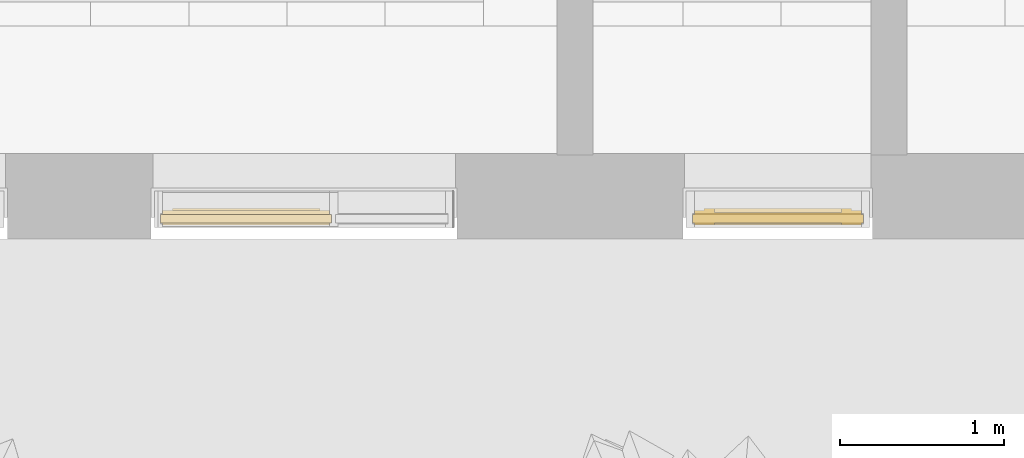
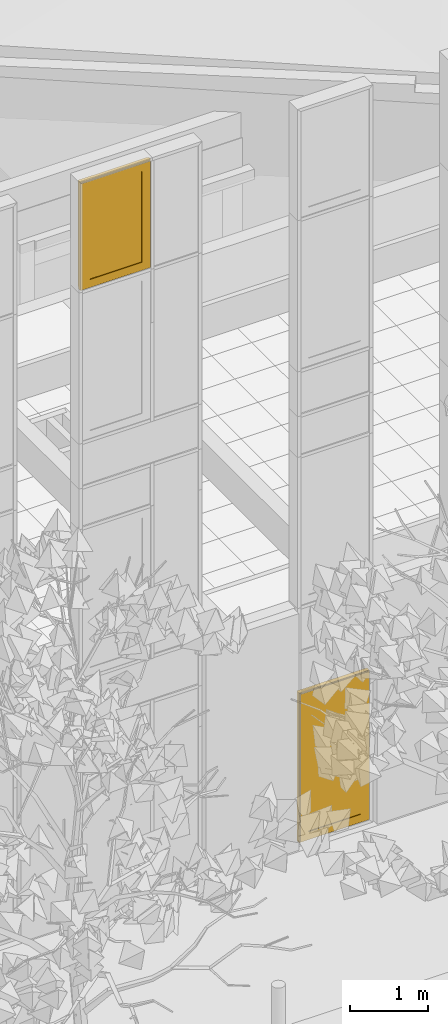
# One storey, part 151 of 246: 2 windows, 2 elements without a shape of their own.
"""IFC2X3 building model written with IfcOpenShell, lengths in millimetres."""

from ifc_helpers import new_model, entity, si_unit, converted_unit, derived_unit, money_unit, direction, frame, origin_with_axes, place, context, subcontext, project, spatial, open_shell, faceted_brep, surface_model, source, transform, mapped, material, material_list, type_object, element, aggregate, save


model = new_model("IFC2X3")

# Units and contexts
model_context = context("Model", 3, precision=0.01, world=origin_with_axes(), true_north=direction((0.0, 1.0)))
body_context = subcontext(model_context, "Body", "Model", "MODEL_VIEW")
ifc_project = project(units=[si_unit("LENGTHUNIT", "METRE", prefix="MILLI"), si_unit("AREAUNIT", "SQUARE_METRE"), si_unit("VOLUMEUNIT", "CUBIC_METRE"), converted_unit("PLANEANGLEUNIT", "DEGREE", entity("IfcPlaneAngleMeasure", 0.0174532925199), si_unit("PLANEANGLEUNIT", "RADIAN"), dimensions=[0, 0, 0, 0, 0, 0, 0]), si_unit("SOLIDANGLEUNIT", "STERADIAN"), money_unit("EUR"), converted_unit("TIMEUNIT", "Year", entity("IfcTimeMeasure", 31556926.0), si_unit("TIMEUNIT", "SECOND"), dimensions=[0, 0, 1, 0, 0, 0, 0]), si_unit("MASSUNIT", "GRAM", prefix="KILO"), si_unit("THERMODYNAMICTEMPERATUREUNIT", "DEGREE_CELSIUS"), si_unit("LUMINOUSINTENSITYUNIT", "LUMEN"), si_unit("ENERGYUNIT", "JOULE", prefix="MEGA"), derived_unit("THERMALCONDUCTANCEUNIT", [(si_unit("POWERUNIT", "WATT"), 1), (si_unit("LENGTHUNIT", "METRE"), -1), (si_unit("THERMODYNAMICTEMPERATUREUNIT", "KELVIN"), -1)]), derived_unit("SPECIFICHEATCAPACITYUNIT", [(si_unit("ENERGYUNIT", "JOULE"), 1), (si_unit("MASSUNIT", "GRAM", prefix="KILO"), -1), (si_unit("THERMODYNAMICTEMPERATUREUNIT", "KELVIN"), -1)]), derived_unit("MASSDENSITYUNIT", [(si_unit("MASSUNIT", "GRAM", prefix="KILO"), 1), (si_unit("VOLUMEUNIT", "CUBIC_METRE"), -1)])], contexts=[model_context])

# Site, building, storey
site_placement = place(None, origin_with_axes())
site = spatial("IfcSite", under=ifc_project, at=site_placement, Name="L.Koidula tn 11b", CompositionType="ELEMENT")
building_placement = place(site_placement, origin_with_axes())
building = spatial("IfcBuilding", under=site, at=building_placement, Name="Rakvere Riigigümnaasium", CompositionType="ELEMENT")
storey_placement = place(building_placement, origin_with_axes())
storey = spatial("IfcBuildingStorey", under=building, at=storey_placement, Name="1.korrus 0,00", CompositionType="ELEMENT", Elevation=0.0)

# Curtain wall, window
curtain_wall_type = type_object("IfcCurtainWallType", Name="Curtain Wall Type", PredefinedType="NOTDEFINED")
curtain_wall_1_placement = place(storey_placement, frame((81464.0000846, 5111.45334637, -8.09717250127e-06), z_axis=(0.0, 0.0, 1.0), x_axis=(1.0, 0.0, 0.0)))
curtain_wall_1 = element("IfcCurtainWall", 1, at=curtain_wall_1_placement, inside=storey, type_object=curtain_wall_type, Name="KLF-05-2A")
ifc_material_1 = material(Name="Alumiiniumprofiil (RAL 7021)")
ifc_material_2 = material(Name="Klaaspakett 3x ribikardinatega")
ifc_material_list = material_list([ifc_material_1, ifc_material_2])
window_style_1 = type_object("IfcWindowStyle", Name="1046 x 1701 x 54", ConstructionType="NOTDEFINED", OperationType="NOTDEFINED", ParameterTakesPrecedence=False, Sizeable=False)
shared_shape_1 = source(origin_with_axes(), body_context, "Body", "SurfaceModel", [
    surface_model("IfcShellBasedSurfaceModel", [(49.9999937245, 24.9999968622, 38.0), (108.999993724, 83.9999968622, 38.0), (1011.00000652, 83.9999968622, 38.0), (1070.00000652, 24.9999968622, 38.0)], [open_shell([[[0, 1, 2, 3]]])]),
    surface_model("IfcShellBasedSurfaceModel", [(1070.00000652, 24.9999968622, 38.0), (1011.00000652, 83.9999968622, 38.0), (1011.00000652, 1641.0000474, 38.0), (1070.00000652, 1700.0000474, 38.0)], [open_shell([[[0, 1, 2, 3]]])]),
    surface_model("IfcShellBasedSurfaceModel", [(49.9999937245, 1700.0000474, 38.0), (1070.00000652, 1700.0000474, 38.0), (1011.00000652, 1641.0000474, 38.0), (108.999993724, 1641.0000474, 38.0)], [open_shell([[[0, 1, 2, 3]]])]),
    surface_model("IfcShellBasedSurfaceModel", [(49.9999937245, 24.9999968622, 38.0), (49.9999937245, 1700.0000474, 38.0), (108.999993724, 1641.0000474, 38.0), (108.999993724, 83.9999968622, 38.0)], [open_shell([[[0, 1, 2, 3]]])]),
    faceted_brep([(49.9999937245, 24.9999968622, -51.0), (1070.00000652, 24.9999968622, -51.0), (1070.00000652, 24.9999968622, 38.0), (49.9999937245, 24.9999968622, 38.0), (108.999993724, 83.9999968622, -51.0), (1011.00000652, 83.9999968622, -51.0), (1011.00000652, 83.9999968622, 38.0), (108.999993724, 83.9999968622, 38.0)], [[[0, 1, 2, 3]], [[0, 4, 5, 1]], [[1, 5, 6, 2]], [[3, 2, 6, 7]], [[4, 0, 3, 7]], [[5, 4, 7, 6]]]),
    faceted_brep([(1070.00000652, 24.9999968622, -51.0), (1070.00000652, 1700.0000474, -51.0), (1070.00000652, 1700.0000474, 38.0), (1070.00000652, 24.9999968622, 38.0), (1011.00000652, 83.9999968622, -51.0), (1011.00000652, 1641.0000474, -51.0), (1011.00000652, 1641.0000474, 38.0), (1011.00000652, 83.9999968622, 38.0)], [[[0, 1, 2, 3]], [[0, 4, 5, 1]], [[1, 5, 6, 2]], [[3, 2, 6, 7]], [[4, 0, 3, 7]], [[5, 4, 7, 6]]]),
    faceted_brep([(49.9999937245, 1700.0000474, -51.0), (108.999993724, 1641.0000474, -51.0), (108.999993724, 1641.0000474, 38.0), (49.9999937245, 1700.0000474, 38.0), (1070.00000652, 1700.0000474, -51.0), (1011.00000652, 1641.0000474, -51.0), (1011.00000652, 1641.0000474, 38.0), (1070.00000652, 1700.0000474, 38.0)], [[[0, 1, 2, 3]], [[0, 4, 5, 1]], [[1, 5, 6, 2]], [[3, 2, 6, 7]], [[4, 0, 3, 7]], [[5, 4, 7, 6]]]),
    faceted_brep([(49.9999937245, 24.9999968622, -51.0), (108.999993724, 83.9999968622, -51.0), (108.999993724, 83.9999968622, 38.0), (49.9999937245, 24.9999968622, 38.0), (49.9999937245, 1700.0000474, -51.0), (108.999993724, 1641.0000474, -51.0), (108.999993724, 1641.0000474, 38.0), (49.9999937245, 1700.0000474, 38.0)], [[[0, 1, 2, 3]], [[0, 4, 5, 1]], [[1, 5, 6, 2]], [[3, 2, 6, 7]], [[4, 0, 3, 7]], [[5, 4, 7, 6]]]),
    faceted_brep([(37.00000683, 12.0000099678, -27.0), (1082.99999341, 12.0000099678, -27.0), (1082.99999341, 12.0000099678, 27.0), (37.00000683, 12.0000099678, 27.0), (49.9999937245, 24.9999968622, -27.0), (1070.00000652, 24.9999968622, -27.0), (1070.00000652, 24.9999968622, 27.0), (49.9999937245, 24.9999968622, 27.0)], [[[0, 1, 2, 3]], [[0, 4, 5, 1]], [[1, 5, 6, 2]], [[3, 2, 6, 7]], [[4, 0, 3, 7]], [[5, 4, 7, 6]]]),
    faceted_brep([(1082.99999341, 12.0000099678, -27.0), (1082.99999341, 1713.0000343, -27.0), (1082.99999341, 1713.0000343, 27.0), (1082.99999341, 12.0000099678, 27.0), (1070.00000652, 24.9999968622, -27.0), (1070.00000652, 1700.0000474, -27.0), (1070.00000652, 1700.0000474, 27.0), (1070.00000652, 24.9999968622, 27.0)], [[[0, 1, 2, 3]], [[0, 4, 5, 1]], [[1, 5, 6, 2]], [[3, 2, 6, 7]], [[4, 0, 3, 7]], [[5, 4, 7, 6]]]),
    faceted_brep([(1082.99999341, 1713.0000343, -27.0), (37.00000683, 1713.0000343, -27.0), (37.00000683, 1713.0000343, 27.0), (1082.99999341, 1713.0000343, 27.0), (1070.00000652, 1700.0000474, -27.0), (49.9999937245, 1700.0000474, -27.0), (49.9999937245, 1700.0000474, 27.0), (1070.00000652, 1700.0000474, 27.0)], [[[0, 1, 2, 3]], [[0, 4, 5, 1]], [[1, 5, 6, 2]], [[3, 2, 6, 7]], [[4, 0, 3, 7]], [[5, 4, 7, 6]]]),
    faceted_brep([(37.00000683, 1713.0000343, -27.0), (37.00000683, 12.0000099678, -27.0), (37.00000683, 12.0000099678, 27.0), (37.00000683, 1713.0000343, 27.0), (49.9999937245, 1700.0000474, -27.0), (49.9999937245, 24.9999968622, -27.0), (49.9999937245, 24.9999968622, 27.0), (49.9999937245, 1700.0000474, 27.0)], [[[0, 1, 2, 3]], [[0, 4, 5, 1]], [[1, 5, 6, 2]], [[3, 2, 6, 7]], [[4, 0, 3, 7]], [[5, 4, 7, 6]]]),
    faceted_brep([(171.999993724, 146.999996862, 38.0), (171.999993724, 146.999996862, -62.0), (171.999993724, 1578.0000474, -62.0), (171.999993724, 1578.0000474, 38.0), (108.999993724, 83.9999968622, 38.0), (108.999993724, 83.9999968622, -62.0), (108.999993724, 1641.0000474, -62.0), (108.999993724, 1641.0000474, 38.0)], [[[0, 1, 2, 3]], [[4, 5, 1, 0]], [[1, 5, 6, 2]], [[3, 2, 6, 7]], [[0, 3, 7, 4]], [[7, 6, 5, 4]]]),
    faceted_brep([(1011.00000652, 83.9999968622, 38.0), (1011.00000652, 83.9999968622, -62.0), (1011.00000652, 1641.0000474, -62.0), (1011.00000652, 1641.0000474, 38.0), (948.00000652, 146.999996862, 38.0), (948.00000652, 146.999996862, -62.0), (948.00000652, 1578.0000474, -62.0), (948.00000652, 1578.0000474, 38.0)], [[[0, 1, 2, 3]], [[4, 5, 1, 0]], [[1, 5, 6, 2]], [[3, 2, 6, 7]], [[0, 3, 7, 4]], [[7, 6, 5, 4]]]),
    faceted_brep([(1011.00000652, 83.9999968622, 38.0), (1011.00000652, 83.9999968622, -62.0), (948.00000652, 146.999996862, -62.0), (948.00000652, 146.999996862, 38.0), (108.999993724, 83.9999968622, 38.0), (108.999993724, 83.9999968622, -62.0), (171.999993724, 146.999996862, -62.0), (171.999993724, 146.999996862, 38.0)], [[[0, 1, 2, 3]], [[4, 5, 1, 0]], [[1, 5, 6, 2]], [[3, 2, 6, 7]], [[0, 3, 7, 4]], [[7, 6, 5, 4]]]),
    faceted_brep([(108.999993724, 1641.0000474, 38.0), (108.999993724, 1641.0000474, -62.0), (171.999993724, 1578.0000474, -62.0), (171.999993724, 1578.0000474, 38.0), (1011.00000652, 1641.0000474, 38.0), (1011.00000652, 1641.0000474, -62.0), (948.00000652, 1578.0000474, -62.0), (948.00000652, 1578.0000474, 38.0)], [[[0, 1, 2, 3]], [[4, 5, 1, 0]], [[1, 5, 6, 2]], [[3, 2, 6, 7]], [[0, 3, 7, 4]], [[7, 6, 5, 4]]]),
    faceted_brep([(171.999993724, 146.999996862, 27.0), (171.999993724, 146.999996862, 11.0), (948.00000652, 146.999996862, 11.0), (948.00000652, 146.999996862, 27.0), (171.999993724, 1578.0000474, 27.0), (171.999993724, 1578.0000474, 11.0), (948.00000652, 1578.0000474, 11.0), (948.00000652, 1578.0000474, 27.0)], [[[0, 1, 2, 3]], [[4, 5, 1, 0]], [[1, 5, 6, 2]], [[3, 2, 6, 7]], [[0, 3, 7, 4]], [[7, 6, 5, 4]]]),
])
window_1_placement = place(curtain_wall_1_placement, frame((-406.500087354, 0.0, 10715.0000206), z_axis=(0.0, 0.0, 1.0), x_axis=(-1.0, 0.0, 0.0)))
window_1 = element("IfcWindow", 2, at=window_1_placement, type_object=window_style_1, material=ifc_material_list, Name="KLF-05-A-3", ObjectType="WINDOW", context=body_context, shape_type="MappedRepresentation", body=[
    mapped(shared_shape_1, transform((547.5, 0.0, -875.000020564), x_axis=(-1.0, 0.0, 0.0), y_axis=(0.0, 0.0, 1.0), z_axis=(0.0, 1.0, 0.0))),
])
aggregate(curtain_wall_1, [window_1])

curtain_wall_2_placement = place(storey_placement, frame((84320.1847914, 5111.45334637, -1.61944635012e-05), z_axis=(0.0, 0.0, 1.0), x_axis=(1.0, 0.0, 0.0)))
curtain_wall_2 = element("IfcCurtainWall", 3, at=curtain_wall_2_placement, inside=storey, type_object=curtain_wall_type, Name="KLF-05-1C")
window_style_2 = type_object("IfcWindowStyle", Name="1046 x 2351 x 54", ConstructionType="NOTDEFINED", OperationType="NOTDEFINED", ParameterTakesPrecedence=False, Sizeable=False)
shared_shape_2 = source(origin_with_axes(), body_context, "Body", "SurfaceModel", [
    surface_model("IfcShellBasedSurfaceModel", [(50.4998936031, 50.0, 38.0), (109.499893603, 109.0, 38.0), (1011.50021547, 109.0, 38.0), (1070.50021547, 50.0, 38.0)], [open_shell([[[0, 1, 2, 3]]])]),
    surface_model("IfcShellBasedSurfaceModel", [(1070.50021547, 50.0, 38.0), (1011.50021547, 109.0, 38.0), (1011.50021547, 2316.0, 38.0), (1070.50021547, 2375.0, 38.0)], [open_shell([[[0, 1, 2, 3]]])]),
    surface_model("IfcShellBasedSurfaceModel", [(50.4998936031, 2375.0, 38.0), (1070.50021547, 2375.0, 38.0), (1011.50021547, 2316.0, 38.0), (109.499893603, 2316.0, 38.0)], [open_shell([[[0, 1, 2, 3]]])]),
    surface_model("IfcShellBasedSurfaceModel", [(50.4998936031, 50.0, 38.0), (50.4998936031, 2375.0, 38.0), (109.499893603, 2316.0, 38.0), (109.499893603, 109.0, 38.0)], [open_shell([[[0, 1, 2, 3]]])]),
    faceted_brep([(50.4998936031, 50.0, -51.0), (1070.50021547, 50.0, -51.0), (1070.50021547, 50.0, 38.0), (50.4998936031, 50.0, 38.0), (109.499893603, 109.0, -51.0), (1011.50021547, 109.0, -51.0), (1011.50021547, 109.0, 38.0), (109.499893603, 109.0, 38.0)], [[[0, 1, 2, 3]], [[0, 4, 5, 1]], [[1, 5, 6, 2]], [[3, 2, 6, 7]], [[4, 0, 3, 7]], [[5, 4, 7, 6]]]),
    faceted_brep([(1070.50021547, 50.0, -51.0), (1070.50021547, 2375.0, -51.0), (1070.50021547, 2375.0, 38.0), (1070.50021547, 50.0, 38.0), (1011.50021547, 109.0, -51.0), (1011.50021547, 2316.0, -51.0), (1011.50021547, 2316.0, 38.0), (1011.50021547, 109.0, 38.0)], [[[0, 1, 2, 3]], [[0, 4, 5, 1]], [[1, 5, 6, 2]], [[3, 2, 6, 7]], [[4, 0, 3, 7]], [[5, 4, 7, 6]]]),
    faceted_brep([(50.4998936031, 2375.0, -51.0), (109.499893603, 2316.0, -51.0), (109.499893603, 2316.0, 38.0), (50.4998936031, 2375.0, 38.0), (1070.50021547, 2375.0, -51.0), (1011.50021547, 2316.0, -51.0), (1011.50021547, 2316.0, 38.0), (1070.50021547, 2375.0, 38.0)], [[[0, 1, 2, 3]], [[0, 4, 5, 1]], [[1, 5, 6, 2]], [[3, 2, 6, 7]], [[4, 0, 3, 7]], [[5, 4, 7, 6]]]),
    faceted_brep([(50.4998936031, 50.0, -51.0), (109.499893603, 109.0, -51.0), (109.499893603, 109.0, 38.0), (50.4998936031, 50.0, 38.0), (50.4998936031, 2375.0, -51.0), (109.499893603, 2316.0, -51.0), (109.499893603, 2316.0, 38.0), (50.4998936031, 2375.0, 38.0)], [[[0, 1, 2, 3]], [[0, 4, 5, 1]], [[1, 5, 6, 2]], [[3, 2, 6, 7]], [[4, 0, 3, 7]], [[5, 4, 7, 6]]]),
    faceted_brep([(37.4998936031, 37.0, -27.0), (1083.50021547, 37.0, -27.0), (1083.50021547, 37.0, 27.0), (37.4998936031, 37.0, 27.0), (50.4998936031, 50.0, -27.0), (1070.50021547, 50.0, -27.0), (1070.50021547, 50.0, 27.0), (50.4998936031, 50.0, 27.0)], [[[0, 1, 2, 3]], [[0, 4, 5, 1]], [[1, 5, 6, 2]], [[3, 2, 6, 7]], [[4, 0, 3, 7]], [[5, 4, 7, 6]]]),
    faceted_brep([(1083.50021547, 37.0, -27.0), (1083.50021547, 2388.0, -27.0), (1083.50021547, 2388.0, 27.0), (1083.50021547, 37.0, 27.0), (1070.50021547, 50.0, -27.0), (1070.50021547, 2375.0, -27.0), (1070.50021547, 2375.0, 27.0), (1070.50021547, 50.0, 27.0)], [[[0, 1, 2, 3]], [[0, 4, 5, 1]], [[1, 5, 6, 2]], [[3, 2, 6, 7]], [[4, 0, 3, 7]], [[5, 4, 7, 6]]]),
    faceted_brep([(1083.50021547, 2388.0, -27.0), (37.4998936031, 2388.0, -27.0), (37.4998936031, 2388.0, 27.0), (1083.50021547, 2388.0, 27.0), (1070.50021547, 2375.0, -27.0), (50.4998936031, 2375.0, -27.0), (50.4998936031, 2375.0, 27.0), (1070.50021547, 2375.0, 27.0)], [[[0, 1, 2, 3]], [[0, 4, 5, 1]], [[1, 5, 6, 2]], [[3, 2, 6, 7]], [[4, 0, 3, 7]], [[5, 4, 7, 6]]]),
    faceted_brep([(37.4998936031, 2388.0, -27.0), (37.4998936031, 37.0, -27.0), (37.4998936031, 37.0, 27.0), (37.4998936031, 2388.0, 27.0), (50.4998936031, 2375.0, -27.0), (50.4998936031, 50.0, -27.0), (50.4998936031, 50.0, 27.0), (50.4998936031, 2375.0, 27.0)], [[[0, 1, 2, 3]], [[0, 4, 5, 1]], [[1, 5, 6, 2]], [[3, 2, 6, 7]], [[4, 0, 3, 7]], [[5, 4, 7, 6]]]),
    faceted_brep([(172.499893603, 172.0, 38.0), (172.499893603, 172.0, -62.0), (172.499893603, 2253.0, -62.0), (172.499893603, 2253.0, 38.0), (109.499893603, 109.0, 38.0), (109.499893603, 109.0, -62.0), (109.499893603, 2316.0, -62.0), (109.499893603, 2316.0, 38.0)], [[[0, 1, 2, 3]], [[4, 5, 1, 0]], [[1, 5, 6, 2]], [[3, 2, 6, 7]], [[0, 3, 7, 4]], [[7, 6, 5, 4]]]),
    faceted_brep([(1011.50021547, 109.0, 38.0), (1011.50021547, 109.0, -62.0), (1011.50021547, 2316.0, -62.0), (1011.50021547, 2316.0, 38.0), (948.500215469, 172.0, 38.0), (948.500215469, 172.0, -62.0), (948.500215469, 2253.0, -62.0), (948.500215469, 2253.0, 38.0)], [[[0, 1, 2, 3]], [[4, 5, 1, 0]], [[1, 5, 6, 2]], [[3, 2, 6, 7]], [[0, 3, 7, 4]], [[7, 6, 5, 4]]]),
    faceted_brep([(1011.50021547, 109.0, 38.0), (1011.50021547, 109.0, -62.0), (948.500215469, 172.0, -62.0), (948.500215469, 172.0, 38.0), (109.499893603, 109.0, 38.0), (109.499893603, 109.0, -62.0), (172.499893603, 172.0, -62.0), (172.499893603, 172.0, 38.0)], [[[0, 1, 2, 3]], [[4, 5, 1, 0]], [[1, 5, 6, 2]], [[3, 2, 6, 7]], [[0, 3, 7, 4]], [[7, 6, 5, 4]]]),
    faceted_brep([(109.499893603, 2316.0, 38.0), (109.499893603, 2316.0, -62.0), (172.499893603, 2253.0, -62.0), (172.499893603, 2253.0, 38.0), (1011.50021547, 2316.0, 38.0), (1011.50021547, 2316.0, -62.0), (948.500215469, 2253.0, -62.0), (948.500215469, 2253.0, 38.0)], [[[0, 1, 2, 3]], [[4, 5, 1, 0]], [[1, 5, 6, 2]], [[3, 2, 6, 7]], [[0, 3, 7, 4]], [[7, 6, 5, 4]]]),
    faceted_brep([(172.499893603, 172.0, 27.0), (172.499893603, 172.0, -38.0), (948.500215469, 172.0, -38.0), (948.500215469, 172.0, 27.0), (172.499893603, 2253.0, 27.0), (172.499893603, 2253.0, -38.0), (948.500215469, 2253.0, -38.0), (948.500215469, 2253.0, 27.0)], [[[0, 1, 2, 3]], [[4, 5, 1, 0]], [[1, 5, 6, 2]], [[3, 2, 6, 7]], [[0, 3, 7, 4]], [[7, 6, 5, 4]]]),
])
window_2_placement = place(curtain_wall_2_placement, frame((0.0, 0.0, 1200.0), z_axis=(0.0, 0.0, 1.0), x_axis=(-1.0, 0.0, 0.0)))
window_2 = element("IfcWindow", 4, at=window_2_placement, type_object=window_style_2, material=ifc_material_list, Name="KLF-05-A-1", ObjectType="WINDOW", context=body_context, shape_type="MappedRepresentation", body=[
    mapped(shared_shape_2, transform((560.500051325, 0.0, -1200.0), x_axis=(-1.0, 0.0, 0.0), y_axis=(0.0, 0.0, 1.0), z_axis=(0.0, 1.0, 0.0))),
])
aggregate(curtain_wall_2, [window_2])

save(model, "model.ifc")
